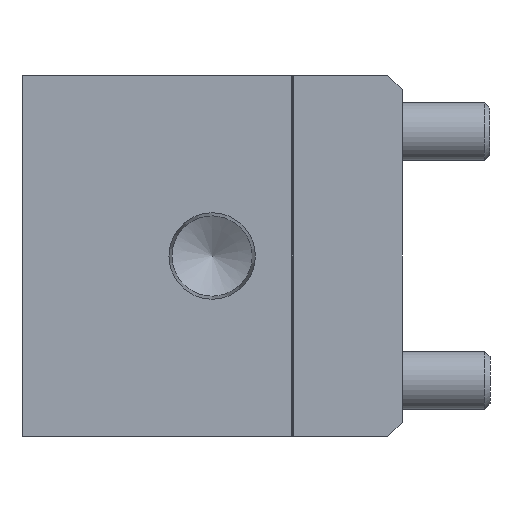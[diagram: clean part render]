
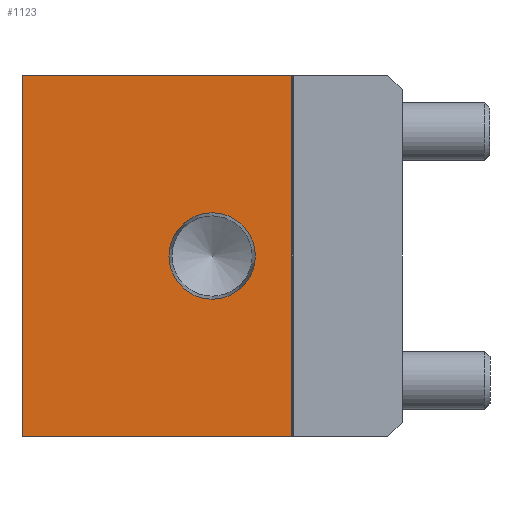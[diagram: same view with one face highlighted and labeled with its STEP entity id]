
A CAD part, left-side view. The second image highlights one B-rep face of the part: STEP entity #1123.
In plain terms, the highlighted planar face has unit normal (-1, 0, 0).
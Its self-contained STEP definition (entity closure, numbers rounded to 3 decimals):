
#1123 = ADVANCED_FACE( '', ( #2528, #2529 ), #2530, .F. );
#2528 = FACE_BOUND( '', #4323, .T. );
#2529 = FACE_OUTER_BOUND( '', #4324, .T. );
#2530 = PLANE( '', #4325 );
#4323 = EDGE_LOOP( '', ( #7008 ) );
#4324 = EDGE_LOOP( '', ( #7009, #7010, #7011, #7012 ) );
#4325 = AXIS2_PLACEMENT_3D( '', #7013, #7014, #7015 );
#7008 = ORIENTED_EDGE( '', *, *, #10070, .T. );
#7009 = ORIENTED_EDGE( '', *, *, #10275, .F. );
#7010 = ORIENTED_EDGE( '', *, *, #10276, .F. );
#7011 = ORIENTED_EDGE( '', *, *, #10180, .T. );
#7012 = ORIENTED_EDGE( '', *, *, #10277, .T. );
#7013 = CARTESIAN_POINT( '', ( 0., 52., 24.75 ) );
#7014 = DIRECTION( '', ( 1., 0., 0. ) );
#7015 = DIRECTION( '', ( 0., 0., -1. ) );
#10070 = EDGE_CURVE( '', #11974, #11974, #11975, .T. );
#10180 = EDGE_CURVE( '', #12138, #12136, #12139, .T. );
#10275 = EDGE_CURVE( '', #12268, #12269, #12270, .T. );
#10276 = EDGE_CURVE( '', #12138, #12268, #12271, .T. );
#10277 = EDGE_CURVE( '', #12136, #12269, #12272, .T. );
#11974 = VERTEX_POINT( '', #14432 );
#11975 = CIRCLE( '', #14433, 5.91 );
#12136 = VERTEX_POINT( '', #14647 );
#12138 = VERTEX_POINT( '', #14650 );
#12139 = LINE( '', #14651, #14652 );
#12268 = VERTEX_POINT( '', #14810 );
#12269 = VERTEX_POINT( '', #14811 );
#12270 = LINE( '', #14812, #14813 );
#12271 = LINE( '', #14814, #14815 );
#12272 = LINE( '', #14816, #14817 );
#14432 = CARTESIAN_POINT( '', ( 0., 26., -5.91 ) );
#14433 = AXIS2_PLACEMENT_3D( '', #16622, #16623, #16624 );
#14647 = CARTESIAN_POINT( '', ( 0., 52., -24.75 ) );
#14650 = CARTESIAN_POINT( '', ( 0., 52., 24.75 ) );
#14651 = CARTESIAN_POINT( '', ( 0., 52., 24.75 ) );
#14652 = VECTOR( '', #16748, 1000. );
#14810 = CARTESIAN_POINT( '', ( 0., 15.1, 24.75 ) );
#14811 = CARTESIAN_POINT( '', ( 0., 15.1, -24.75 ) );
#14812 = CARTESIAN_POINT( '', ( 0., 15.1, 24.75 ) );
#14813 = VECTOR( '', #16883, 1000. );
#14814 = CARTESIAN_POINT( '', ( 0., 52., 24.75 ) );
#14815 = VECTOR( '', #16884, 1000. );
#14816 = CARTESIAN_POINT( '', ( 0., 52., -24.75 ) );
#14817 = VECTOR( '', #16885, 1000. );
#16622 = CARTESIAN_POINT( '', ( 0., 26., 0. ) );
#16623 = DIRECTION( '', ( 1., 0., 0. ) );
#16624 = DIRECTION( '', ( 0., 0., -1. ) );
#16748 = DIRECTION( '', ( 0., 0., -1. ) );
#16883 = DIRECTION( '', ( 0., 0., -1. ) );
#16884 = DIRECTION( '', ( 0., -1., 0. ) );
#16885 = DIRECTION( '', ( 0., -1., 0. ) );
